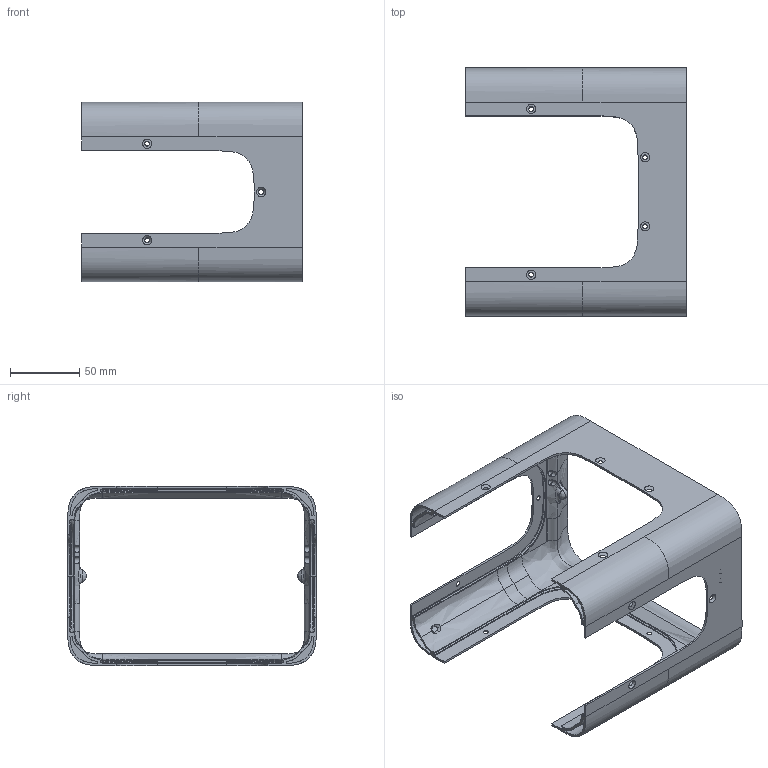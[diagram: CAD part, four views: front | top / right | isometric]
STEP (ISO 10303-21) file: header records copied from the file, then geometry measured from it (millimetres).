
FILE_DESCRIPTION(/* description */ (''),/* implementation_level */ '2;1');
FILE_NAME(/* name */ 'FRONT FRAME.step',/* time_stamp */ '2024-02-28T16:35:32Z',/* author */ (''),/* organization */ (''),/* preprocessor_version */ 'ST-DEVELOPER v20',/* originating_system */ 'Autodesk Translation Framework v12.20.1.177',/* authorisation */ '');
FILE_SCHEMA (('AUTOMOTIVE_DESIGN { 1 0 10303 214 3 1 1 }'));
Products named in the file (1): FRONT FRAME (2)
Bounding box: 160 x 180 x 130 mm (x, y, z)
Volume: 160684.7 mm3; surface area: 150341 mm2
Topology: 1 solids, 3 shells, 345 faces, 882 edges, 546 vertices
Faces by surface type: bspline 182, plane 101, cylinder 40, cone 22
Full cylindrical faces by diameter (mm): 2 x2, 4 x4
Entity records: 35995 total; most frequent: CARTESIAN_POINT 28961, ORIENTED_EDGE 1764, DIRECTION 898, EDGE_CURVE 882, VERTEX_POINT 546, EDGE_LOOP 386, LINE 370, VECTOR 370
